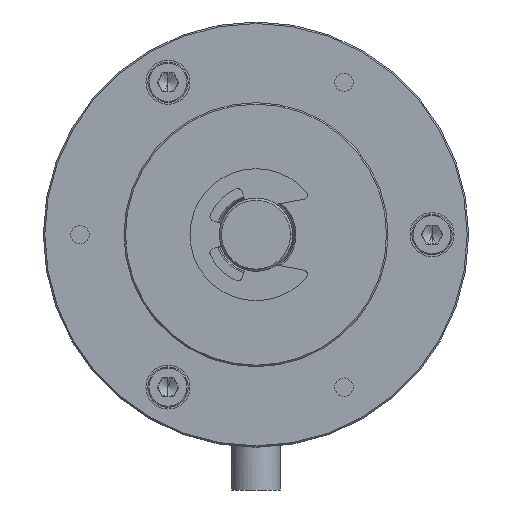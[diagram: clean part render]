
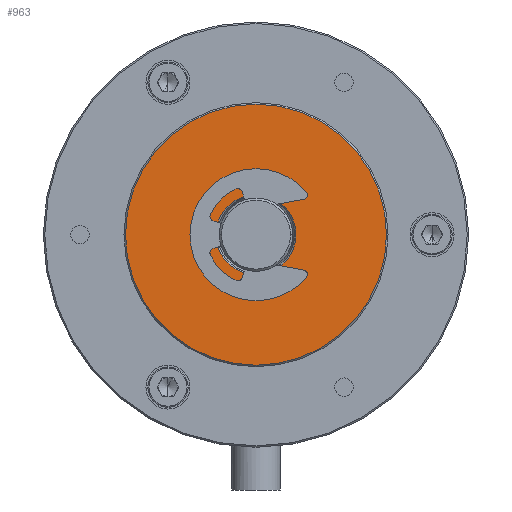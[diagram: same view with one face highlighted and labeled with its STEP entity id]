
A CAD part, left-side view. The second image highlights one B-rep face of the part: STEP entity #963.
In plain terms, the highlighted planar face has unit normal (-1, 0, 0).
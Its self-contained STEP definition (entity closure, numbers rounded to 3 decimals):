
#963 = ADVANCED_FACE ( 'NONE', ( #38565, #36254 ), #37720, .T. ) ;
#1338 = DIRECTION ( 'NONE',  ( 0., -1., 0. ) ) ;
#6838 = VERTEX_POINT ( 'NONE', #28588 ) ;
#13128 = ORIENTED_EDGE ( 'NONE', *, *, #30894, .T. ) ;
#14009 = CARTESIAN_POINT ( 'NONE',  ( 22.673, 26.475, 29.896 ) ) ;
#15822 = CARTESIAN_POINT ( 'NONE',  ( 22.673, 26.475, 29.896 ) ) ;
#19307 = EDGE_CURVE ( 'NONE', #54370, #35920, #68990, .T. ) ;
#21430 = DIRECTION ( 'NONE',  ( 0., -1., 0. ) ) ;
#23267 = DIRECTION ( 'NONE',  ( 0., -1., 0. ) ) ;
#27770 = DIRECTION ( 'NONE',  ( 1., 0., 0. ) ) ;
#28222 = CIRCLE ( 'NONE', #75945, 17.8 ) ;
#28497 = DIRECTION ( 'NONE',  ( -1., 0., 0. ) ) ;
#28588 = CARTESIAN_POINT ( 'NONE',  ( 22.673, 44.275, 29.896 ) ) ;
#30894 = EDGE_CURVE ( 'NONE', #6838, #66917, #44584, .T. ) ;
#34444 = CARTESIAN_POINT ( 'NONE',  ( 22.673, 21.025, 29.896 ) ) ;
#35920 = VERTEX_POINT ( 'NONE', #40704 ) ;
#36254 = FACE_OUTER_BOUND ( 'NONE', #78802, .T. ) ;
#36491 = EDGE_LOOP ( 'NONE', ( #50019, #40717 ) ) ;
#37720 = PLANE ( 'NONE',  #82762 ) ;
#38565 = FACE_BOUND ( 'NONE', #36491, .T. ) ;
#40704 = CARTESIAN_POINT ( 'NONE',  ( 22.673, 31.925, 29.896 ) ) ;
#40717 = ORIENTED_EDGE ( 'NONE', *, *, #40769, .T. ) ;
#40769 = EDGE_CURVE ( 'NONE', #35920, #54370, #55941, .T. ) ;
#44584 = CIRCLE ( 'NONE', #62101, 17.8 ) ;
#45391 = DIRECTION ( 'NONE',  ( -1., 0., 0. ) ) ;
#50019 = ORIENTED_EDGE ( 'NONE', *, *, #19307, .T. ) ;
#52053 = AXIS2_PLACEMENT_3D ( 'NONE', #71587, #27770, #78935 ) ;
#54370 = VERTEX_POINT ( 'NONE', #34444 ) ;
#55941 = CIRCLE ( 'NONE', #74613, 5.45 ) ;
#57969 = ORIENTED_EDGE ( 'NONE', *, *, #83130, .T. ) ;
#62101 = AXIS2_PLACEMENT_3D ( 'NONE', #72334, #28497, #79714 ) ;
#65282 = DIRECTION ( 'NONE',  ( 1., 0., 0. ) ) ;
#66917 = VERTEX_POINT ( 'NONE', #68310 ) ;
#67120 = DIRECTION ( 'NONE',  ( -1., 0., 0. ) ) ;
#68310 = CARTESIAN_POINT ( 'NONE',  ( 22.673, 8.675, 29.896 ) ) ;
#68990 = CIRCLE ( 'NONE', #52053, 5.45 ) ;
#71587 = CARTESIAN_POINT ( 'NONE',  ( 22.673, 26.475, 29.896 ) ) ;
#72334 = CARTESIAN_POINT ( 'NONE',  ( 22.673, 26.475, 29.896 ) ) ;
#74613 = AXIS2_PLACEMENT_3D ( 'NONE', #14009, #65282, #21430 ) ;
#75945 = AXIS2_PLACEMENT_3D ( 'NONE', #15822, #67120, #23267 ) ;
#78802 = EDGE_LOOP ( 'NONE', ( #13128, #57969 ) ) ;
#78935 = DIRECTION ( 'NONE',  ( 0., -1., 0. ) ) ;
#79714 = DIRECTION ( 'NONE',  ( 0., -1., 0. ) ) ;
#82762 = AXIS2_PLACEMENT_3D ( 'NONE', #89198, #45391, #1338 ) ;
#83130 = EDGE_CURVE ( 'NONE', #66917, #6838, #28222, .T. ) ;
#89198 = CARTESIAN_POINT ( 'NONE',  ( 22.673, 31.725, 29.896 ) ) ;
